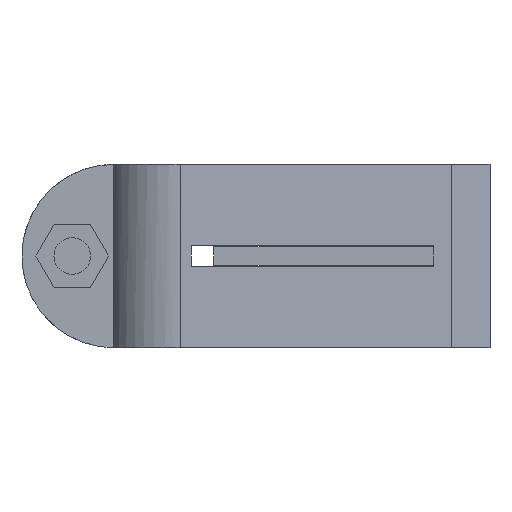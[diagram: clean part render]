
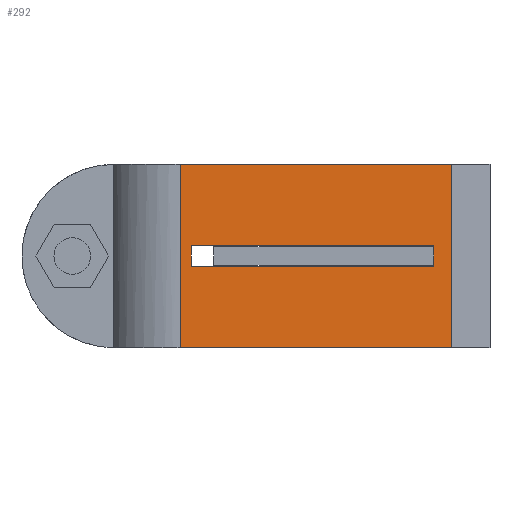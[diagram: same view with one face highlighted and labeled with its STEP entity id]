
A CAD part, front view. The second image highlights one B-rep face of the part: STEP entity #292.
In plain terms, the highlighted planar face has unit normal (0.034, -0.999, 0).
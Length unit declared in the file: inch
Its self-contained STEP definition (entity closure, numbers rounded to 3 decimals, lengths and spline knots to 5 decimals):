
#270=EDGE_CURVE('',#710,#711,#712,.T.);
#292=ADVANCED_FACE('',(#747,#748),#749,.T.);
#298=EDGE_CURVE('',#758,#710,#759,.T.);
#360=EDGE_CURVE('',#860,#861,#862,.T.);
#494=EDGE_CURVE('',#861,#805,#1051,.T.);
#504=EDGE_CURVE('',#1063,#860,#1064,.T.);
#530=EDGE_CURVE('',#943,#711,#1098,.T.);
#582=EDGE_CURVE('',#943,#758,#1162,.T.);
#632=EDGE_CURVE('',#805,#1063,#1227,.T.);
#710=VERTEX_POINT('',#1319);
#711=VERTEX_POINT('',#1320);
#712=LINE('',#1321,#1322);
#747=FACE_BOUND('',#1381,.T.);
#748=FACE_OUTER_BOUND('',#1382,.T.);
#749=PLANE('',#1383);
#758=VERTEX_POINT('',#1397);
#759=LINE('',#1398,#1399);
#805=VERTEX_POINT('',#1470);
#860=VERTEX_POINT('',#1552);
#861=VERTEX_POINT('',#1553);
#862=LINE('',#1554,#1555);
#943=VERTEX_POINT('',#1675);
#1051=LINE('',#1865,#1866);
#1063=VERTEX_POINT('',#1885);
#1064=LINE('',#1886,#1887);
#1098=LINE('',#1955,#1956);
#1162=LINE('',#2059,#2060);
#1227=LINE('',#2172,#2173);
#1319=CARTESIAN_POINT('',(2.89496,0.34668,1.24989));
#1320=CARTESIAN_POINT('',(0.8625,0.27733,1.24989));
#1321=CARTESIAN_POINT('',(1.82074,0.31003,1.24989));
#1322=VECTOR('',#2271,1.0);
#1381=EDGE_LOOP('',(#2313,#2314,#2315,#2316));
#1382=EDGE_LOOP('',(#2317,#2318,#2319,#2320));
#1383=AXIS2_PLACEMENT_3D('',#2321,#2322,#2323);
#1397=CARTESIAN_POINT('',(2.89496,0.34668,0.00009));
#1398=CARTESIAN_POINT('',(2.89496,0.34668,0.0));
#1399=VECTOR('',#2326,1.0);
#1470=CARTESIAN_POINT('',(2.59225,0.33635,0.69499));
#1552=CARTESIAN_POINT('',(0.93844,0.27992,0.55499));
#1553=CARTESIAN_POINT('',(0.93844,0.27992,0.69499));
#1554=CARTESIAN_POINT('',(0.93844,0.27992,0.31249));
#1555=VECTOR('',#2455,1.0);
#1675=CARTESIAN_POINT('',(0.8625,0.27733,0.00009));
#1865=CARTESIAN_POINT('',(1.84331,0.3108,0.69499));
#1866=VECTOR('',#2694,1.0);
#1885=CARTESIAN_POINT('',(2.59225,0.33635,0.55499));
#1886=CARTESIAN_POINT('',(1.84331,0.3108,0.55499));
#1887=VECTOR('',#2706,1.0);
#1955=CARTESIAN_POINT('',(0.8625,0.27733,0.0));
#1956=VECTOR('',#2752,1.0);
#2059=CARTESIAN_POINT('',(1.82074,0.31003,0.00009));
#2060=VECTOR('',#2838,1.0);
#2172=CARTESIAN_POINT('',(2.59225,0.33635,0.31249));
#2173=VECTOR('',#2956,1.0);
#2271=DIRECTION('',(-0.999,-0.034,0.0));
#2313=ORIENTED_EDGE('',*,*,#632,.T.);
#2314=ORIENTED_EDGE('',*,*,#504,.T.);
#2315=ORIENTED_EDGE('',*,*,#360,.T.);
#2316=ORIENTED_EDGE('',*,*,#494,.T.);
#2317=ORIENTED_EDGE('',*,*,#270,.T.);
#2318=ORIENTED_EDGE('',*,*,#530,.F.);
#2319=ORIENTED_EDGE('',*,*,#582,.T.);
#2320=ORIENTED_EDGE('',*,*,#298,.T.);
#2321=CARTESIAN_POINT('',(1.87873,0.31201,0.0));
#2322=DIRECTION('',(0.034,-0.999,0.0));
#2323=DIRECTION('',(0.999,0.034,0.0));
#2326=DIRECTION('',(0.0,0.0,1.0));
#2455=DIRECTION('',(0.0,0.0,1.0));
#2694=DIRECTION('',(0.999,0.034,0.0));
#2706=DIRECTION('',(-0.999,-0.034,0.0));
#2752=DIRECTION('',(0.0,0.0,1.0));
#2838=DIRECTION('',(0.999,0.034,0.0));
#2956=DIRECTION('',(-0.0,0.0,-1.0));
